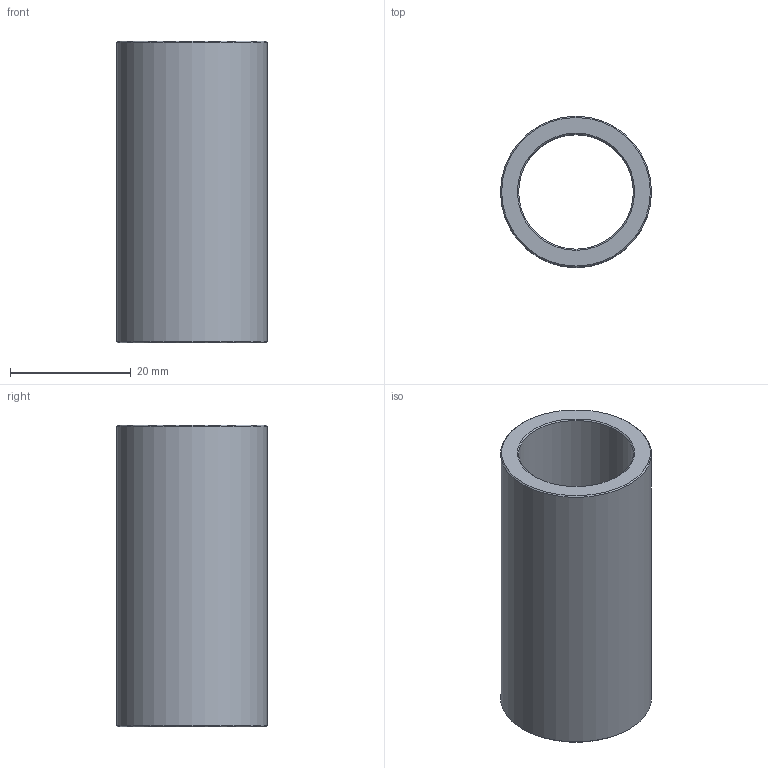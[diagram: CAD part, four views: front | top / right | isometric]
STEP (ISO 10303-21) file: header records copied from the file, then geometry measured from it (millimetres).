
FILE_DESCRIPTION(('STEP AP203'),'1');
FILE_NAME('C:/Users/Rodrigo/Desktop/GA3.019.050-1.step','2016-11-07T13:24:08',(' '),(' '),'Spatial InterOp 3D',' ',' ');
FILE_SCHEMA(('CONFIG_CONTROL_DESIGN'));
Length unit declared in the file: millimetre
Products named in the file (1): 1
Bounding box: 25 x 25 x 50 mm (x, y, z)
Volume: 10361.7 mm3; surface area: 7293.8 mm2
Topology: 1 solids, 1 shells, 8 faces, 14 edges, 8 vertices
Faces by surface type: cone 4, cylinder 2, plane 2
Full cylindrical faces by diameter (mm): 19 x1, 25 x1
Entity records: 212 total; most frequent: DIRECTION 34, CARTESIAN_POINT 25, AXIS2_PLACEMENT_3D 17, EDGE_LOOP 16, ORIENTED_EDGE 16, FACE_OUTER_BOUND 10, ADVANCED_FACE 8, EDGE_CURVE 8
